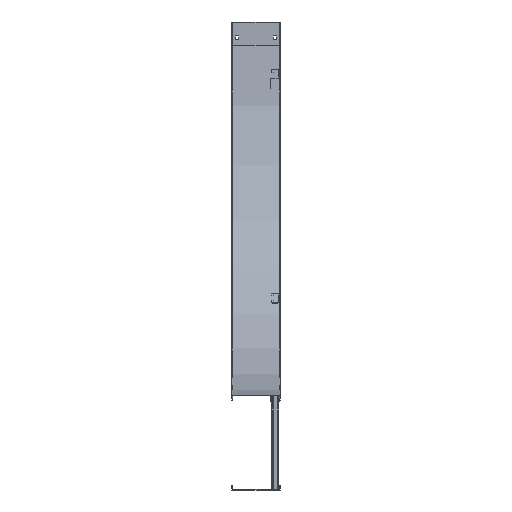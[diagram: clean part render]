
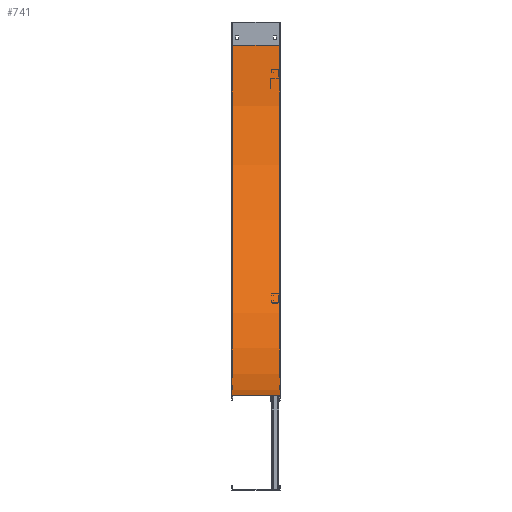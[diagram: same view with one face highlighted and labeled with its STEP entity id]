
A CAD part, left-side view. The second image highlights one B-rep face of the part: STEP entity #741.
In plain terms, the highlighted cylindrical face has radius 1143 mm (diameter 2286 mm), a partial arc.
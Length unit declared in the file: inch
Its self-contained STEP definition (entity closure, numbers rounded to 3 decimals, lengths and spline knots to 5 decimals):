
#156=CARTESIAN_POINT('',(0.,-45.,3.));
#157=DIRECTION('',(1.,0.,0.));
#158=DIRECTION('',(0.,1.,0.));
#159=AXIS2_PLACEMENT_3D('',#156,#157,#158);
#165=DIRECTION('',(1.,0.,0.));
#166=VECTOR('',#165,6.19);
#167=CARTESIAN_POINT('',(-6.19,0.,3.));
#168=LINE('',#167,#166);
#169=CARTESIAN_POINT('',(-6.19,-45.,3.));
#170=DIRECTION('',(1.,0.,0.));
#171=DIRECTION('',(0.,1.,0.));
#172=AXIS2_PLACEMENT_3D('',#169,#170,#171);
#174=DIRECTION('',(1.,0.,0.));
#175=VECTOR('',#174,6.19);
#176=CARTESIAN_POINT('',(-6.19,-45.,48.));
#177=LINE('',#176,#175);
#409=CARTESIAN_POINT('',(-6.19,0.,3.));
#410=CARTESIAN_POINT('',(0.,0.,3.));
#411=VERTEX_POINT('',#409);
#412=VERTEX_POINT('',#410);
#425=CARTESIAN_POINT('',(-6.19,-45.,48.));
#426=CARTESIAN_POINT('',(0.,-45.,48.));
#427=VERTEX_POINT('',#425);
#428=VERTEX_POINT('',#426);
#729=CARTESIAN_POINT('',(-1.,-45.,3.));
#730=DIRECTION('',(1.,0.,0.));
#731=DIRECTION('',(0.,-1.,0.));
#732=AXIS2_PLACEMENT_3D('',#729,#730,#731);
#733=CYLINDRICAL_SURFACE('',#732,45.);
#734=ORIENTED_EDGE('',*,*,#553,.F.);
#735=ORIENTED_EDGE('',*,*,#596,.T.);
#737=ORIENTED_EDGE('',*,*,#736,.T.);
#738=ORIENTED_EDGE('',*,*,#715,.F.);
#739=EDGE_LOOP('',(#734,#735,#737,#738));
#740=FACE_OUTER_BOUND('',#739,.F.);
#741=ADVANCED_FACE('',(#740),#733,.F.);
#160=CIRCLE('',#159,45.);
#173=CIRCLE('',#172,45.);
#553=EDGE_CURVE('',#411,#412,#168,.T.);
#596=EDGE_CURVE('',#411,#427,#173,.T.);
#715=EDGE_CURVE('',#412,#428,#160,.T.);
#736=EDGE_CURVE('',#427,#428,#177,.T.);
